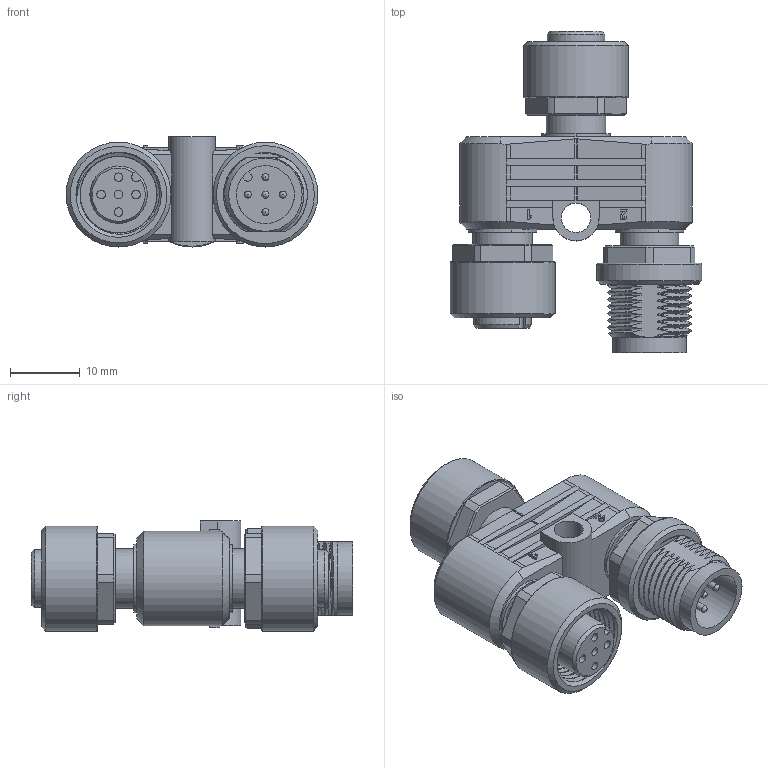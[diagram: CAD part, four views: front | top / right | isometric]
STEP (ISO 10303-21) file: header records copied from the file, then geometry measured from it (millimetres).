
FILE_DESCRIPTION(/* description */ (''),/* implementation_level */ '2;1');
FILE_NAME(/* name */ '350ATC6K_A.stp',/* time_stamp */ '2016-04-27T09:50:01+02:00',/* author */ (''),/* organization */ (''),/* preprocessor_version */ 'ST-DEVELOPER v15',/* originating_system */ 'SIEMENS PLM Software NX 8.5',/* authorisation */ '');
FILE_SCHEMA (('AP203_CONFIGURATION_CONTROLLED_3D_DESIGN_OF_MECHANICAL_PARTS_AND_ASSEMBLIES_MIM_LF { 1 0 10303 403 2 1 2}'));
Length unit declared in the file: millimetre
Products named in the file (1): he1r141C8282a1wr
Bounding box: 36 x 46 x 15.75 mm (x, y, z)
Volume: 9792.3 mm3; surface area: 6658.7 mm2
Topology: 1 solids, 1 shells, 405 faces, 1079 edges, 716 vertices
Faces by surface type: plane 167, cylinder 127, bspline 76, cone 32, torus 3
Full cylindrical faces by diameter (mm): 1 x13, 1.2 x5, 8.2 x2, 8.3 x1, 8.4 x1, 8.5 x2, 10.5 x1, 15 x3
Entity records: 23724 total; most frequent: CARTESIAN_POINT 14285, ORIENTED_EDGE 2066, DIRECTION 1672, EDGE_CURVE 1033, VERTEX_POINT 706, AXIS2_PLACEMENT_3D 601, EDGE_LOOP 483, LINE 470
